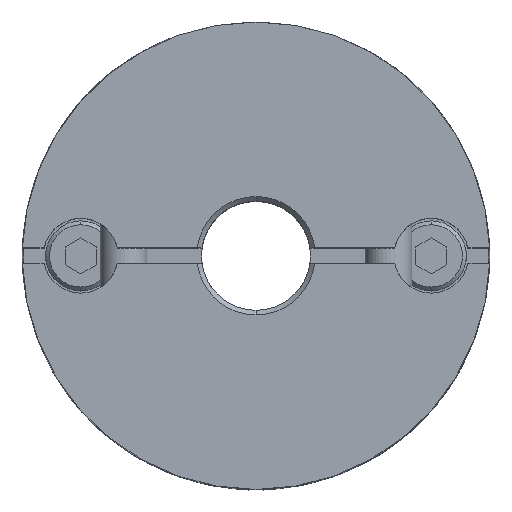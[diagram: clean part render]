
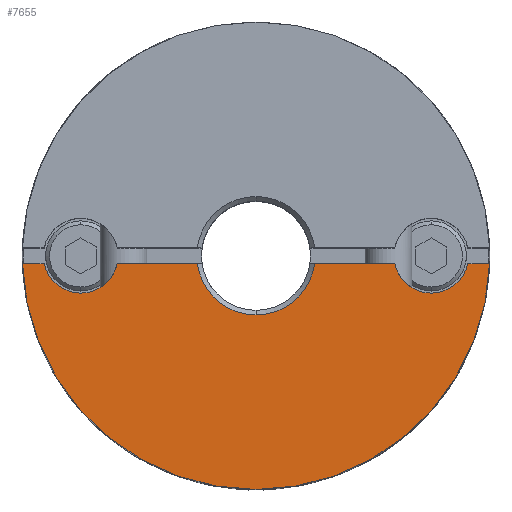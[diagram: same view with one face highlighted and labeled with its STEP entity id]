
A CAD part, top view. The second image highlights one B-rep face of the part: STEP entity #7655.
In plain terms, the highlighted planar face has unit normal (0, 0, 1).
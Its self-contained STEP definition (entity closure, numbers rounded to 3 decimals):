
#622=CARTESIAN_POINT('',(0.,-15.0,11.8));
#623=VERTEX_POINT('',#622);
#630=CARTESIAN_POINT('',(-14.992,-0.5,11.8));
#631=VERTEX_POINT('',#630);
#632=CARTESIAN_POINT('',(0.0,0.0,11.8));
#633=DIRECTION('',(0.0,0.0,-1.0));
#634=DIRECTION('',(0.0,1.0,0.0));
#635=AXIS2_PLACEMENT_3D('',#632,#633,#634);
#636=CIRCLE('',#635,15.0);
#637=EDGE_CURVE('',#623,#631,#636,.T.);
#1032=CARTESIAN_POINT('',(0.,-3.8,11.8));
#1033=VERTEX_POINT('',#1032);
#1041=CARTESIAN_POINT('',(-3.767,-0.5,11.8));
#1042=VERTEX_POINT('',#1041);
#1056=CARTESIAN_POINT('',(0.0,0.0,11.8));
#1057=DIRECTION('',(0.0,0.0,1.0));
#1058=DIRECTION('',(0.0,-1.0,0.0));
#1059=AXIS2_PLACEMENT_3D('',#1056,#1057,#1058);
#1060=CIRCLE('',#1059,3.8);
#1061=EDGE_CURVE('',#1042,#1033,#1060,.T.);
#1353=CARTESIAN_POINT('',(-11.25,-2.4,11.8));
#1354=VERTEX_POINT('',#1353);
#1370=CARTESIAN_POINT('',(-13.597,-0.5,11.8));
#1371=VERTEX_POINT('',#1370);
#1378=CARTESIAN_POINT('',(-11.25,0.,11.8));
#1379=DIRECTION('',(0.0,0.0,-1.0));
#1380=DIRECTION('',(0.0,1.0,0.0));
#1381=AXIS2_PLACEMENT_3D('',#1378,#1379,#1380);
#1382=CIRCLE('',#1381,2.4);
#1383=EDGE_CURVE('',#1354,#1371,#1382,.T.);
#1585=CARTESIAN_POINT('',(11.25,-2.4,11.8));
#1586=VERTEX_POINT('',#1585);
#1652=CARTESIAN_POINT('',(8.903,-0.5,11.8));
#1653=VERTEX_POINT('',#1652);
#1660=CARTESIAN_POINT('',(11.25,0.,11.8));
#1661=DIRECTION('',(0.0,0.0,-1.0));
#1662=DIRECTION('',(0.0,1.0,0.0));
#1663=AXIS2_PLACEMENT_3D('',#1660,#1661,#1662);
#1664=CIRCLE('',#1663,2.4);
#1665=EDGE_CURVE('',#1586,#1653,#1664,.T.);
#6153=CARTESIAN_POINT('',(13.597,-0.5,11.8));
#6154=VERTEX_POINT('',#6153);
#6155=CARTESIAN_POINT('',(11.25,0.,11.8));
#6156=DIRECTION('',(0.0,0.0,-1.0));
#6157=DIRECTION('',(0.0,1.0,0.0));
#6158=AXIS2_PLACEMENT_3D('',#6155,#6156,#6157);
#6159=CIRCLE('',#6158,2.4);
#6160=EDGE_CURVE('',#6154,#1586,#6159,.T.);
#6560=CARTESIAN_POINT('',(-8.903,-0.5,11.8));
#6561=VERTEX_POINT('',#6560);
#6562=CARTESIAN_POINT('',(-11.25,0.,11.8));
#6563=DIRECTION('',(0.0,0.0,-1.0));
#6564=DIRECTION('',(0.0,1.0,0.0));
#6565=AXIS2_PLACEMENT_3D('',#6562,#6563,#6564);
#6566=CIRCLE('',#6565,2.4);
#6567=EDGE_CURVE('',#6561,#1354,#6566,.T.);
#6690=CARTESIAN_POINT('',(-3.767,-0.5,11.8));
#6691=DIRECTION('',(-1.0,0.0,0.0));
#6692=VECTOR('',#6691,5.136);
#6693=LINE('',#6690,#6692);
#6694=EDGE_CURVE('',#1042,#6561,#6693,.T.);
#6807=CARTESIAN_POINT('',(3.767,-0.5,11.8));
#6808=VERTEX_POINT('',#6807);
#6822=CARTESIAN_POINT('',(8.903,-0.5,11.8));
#6823=DIRECTION('',(-1.0,0.0,0.0));
#6824=VECTOR('',#6823,5.136);
#6825=LINE('',#6822,#6824);
#6826=EDGE_CURVE('',#1653,#6808,#6825,.T.);
#7402=CARTESIAN_POINT('',(14.992,-0.5,11.8));
#7403=VERTEX_POINT('',#7402);
#7404=CARTESIAN_POINT('',(14.992,-0.5,11.8));
#7405=DIRECTION('',(-1.0,0.0,0.0));
#7406=VECTOR('',#7405,1.394);
#7407=LINE('',#7404,#7406);
#7408=EDGE_CURVE('',#7403,#6154,#7407,.T.);
#7522=CARTESIAN_POINT('',(-13.597,-0.5,11.8));
#7523=DIRECTION('',(-1.0,0.0,0.0));
#7524=VECTOR('',#7523,1.394);
#7525=LINE('',#7522,#7524);
#7526=EDGE_CURVE('',#1371,#631,#7525,.T.);
#7624=CARTESIAN_POINT('',(0.,1.364,11.8));
#7625=DIRECTION('',(0.0,0.0,1.0));
#7626=DIRECTION('',(0.0,1.0,0.0));
#7627=AXIS2_PLACEMENT_3D('',#7624,#7625,#7626);
#7628=PLANE('',#7627);
#7629=ORIENTED_EDGE('',*,*,#6160,.T.);
#7630=ORIENTED_EDGE('',*,*,#1665,.T.);
#7631=ORIENTED_EDGE('',*,*,#6826,.T.);
#7632=CARTESIAN_POINT('',(0.0,0.0,11.8));
#7633=DIRECTION('',(0.0,0.0,1.0));
#7634=DIRECTION('',(0.0,-1.0,0.0));
#7635=AXIS2_PLACEMENT_3D('',#7632,#7633,#7634);
#7636=CIRCLE('',#7635,3.8);
#7637=EDGE_CURVE('',#1033,#6808,#7636,.T.);
#7638=ORIENTED_EDGE('',*,*,#7637,.F.);
#7639=ORIENTED_EDGE('',*,*,#1061,.F.);
#7640=ORIENTED_EDGE('',*,*,#6694,.T.);
#7641=ORIENTED_EDGE('',*,*,#6567,.T.);
#7642=ORIENTED_EDGE('',*,*,#1383,.T.);
#7643=ORIENTED_EDGE('',*,*,#7526,.T.);
#7644=ORIENTED_EDGE('',*,*,#637,.F.);
#7645=CARTESIAN_POINT('',(0.0,0.0,11.8));
#7646=DIRECTION('',(0.0,0.0,-1.0));
#7647=DIRECTION('',(0.0,1.0,0.0));
#7648=AXIS2_PLACEMENT_3D('',#7645,#7646,#7647);
#7649=CIRCLE('',#7648,15.0);
#7650=EDGE_CURVE('',#7403,#623,#7649,.T.);
#7651=ORIENTED_EDGE('',*,*,#7650,.F.);
#7652=ORIENTED_EDGE('',*,*,#7408,.T.);
#7653=EDGE_LOOP('',(#7629,#7630,#7631,#7638,#7639,#7640,#7641,#7642,#7643,#7644,#7651,#7652));
#7654=FACE_OUTER_BOUND('',#7653,.T.);
#7655=ADVANCED_FACE('',(#7654),#7628,.T.);
